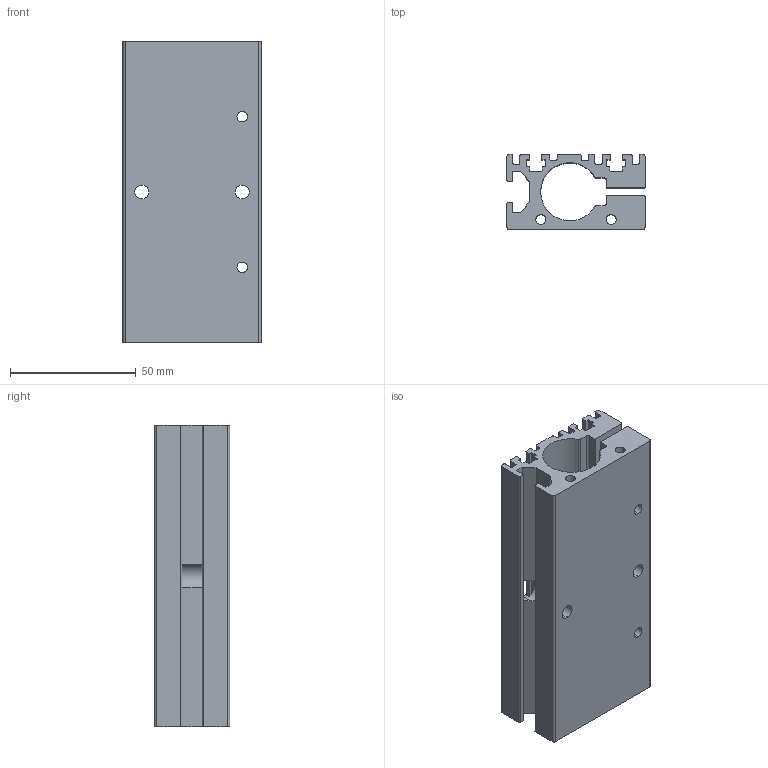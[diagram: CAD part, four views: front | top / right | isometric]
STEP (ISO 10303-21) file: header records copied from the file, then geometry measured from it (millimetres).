
FILE_DESCRIPTION (( 'STEP AP214' ), '1' );
FILE_NAME ('PF02-23x120.STEP', '2008-06-25T10:27:56', ( 'Ausderau' ), ( 'NTI AG' ), 'SwSTEP 2.0', 'SolidWorks 2005037', '' );
FILE_SCHEMA (( 'AUTOMOTIVE_DESIGN' ));
Length unit declared in the file: millimetre
Products named in the file (1): PF02-23x120
Bounding box: 55 x 30 x 120 mm (x, y, z)
Volume: 100449.5 mm3; surface area: 49743.2 mm2
Topology: 1 solids, 1 shells, 194 faces, 580 edges, 384 vertices
Faces by surface type: plane 108, cylinder 86
Entity records: 6805 total; most frequent: CARTESIAN_POINT 1395, ORIENTED_EDGE 1160, DIRECTION 1104, EDGE_CURVE 580, VERTEX_POINT 384, AXIS2_PLACEMENT_3D 373, LINE 358, VECTOR 358
